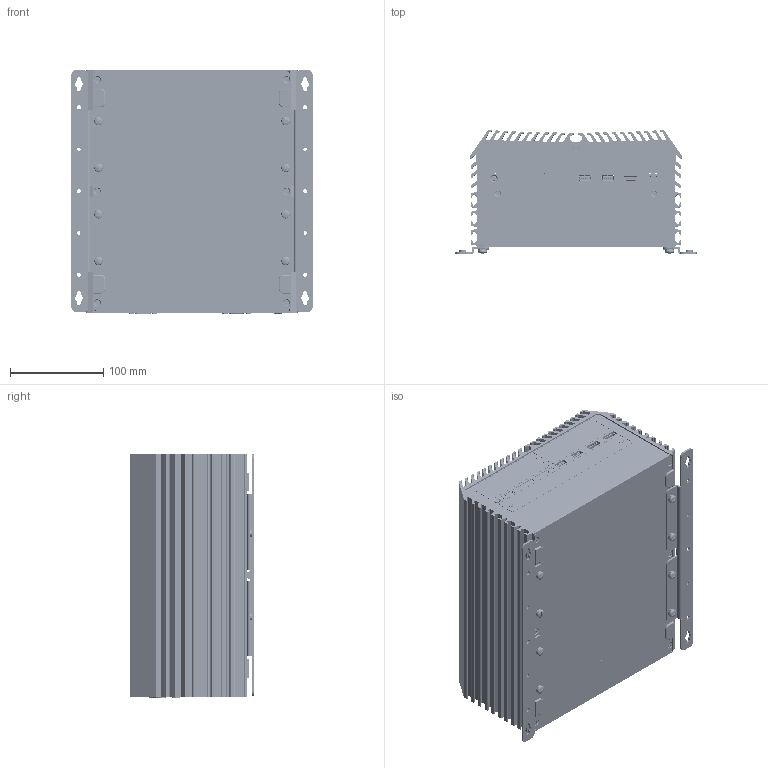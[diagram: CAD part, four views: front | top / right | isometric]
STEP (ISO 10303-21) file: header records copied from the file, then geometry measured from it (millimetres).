
FILE_DESCRIPTION (( 'STEP AP214' ), '1' );
FILE_NAME ('1-DS-1502-¼Ð·Ç-20250203-¥~Æ[.STEP', '2025-04-18T10:42:51', ( '' ), ( '' ), 'SwSTEP 2.0', 'SolidWorks 2014', '' );
FILE_SCHEMA (( 'AUTOMOTIVE_DESIGN' ));
Length unit declared in the file: millimetre
Products named in the file (39): DS-1302-Rear Bezel(M1-407130234100)-20200419; 銅柱-4-4OUNC-4.8_11.8H(M3-COSD6L00000)東莞?輝; AUTIO_2IN1; Screw-耐落-沙拉-90-星型-T10-黑-M3x8(M3-N103082260); Rubber Foot Shore(M4-RUFT0100001); Top Cover(M1-407120206300)-DS-1202-金金-20181015; DS-1200-Front Bezel Matching Bezel(M1-407120084100); Screw-丸頭-十字-外齒-M5x8(M3-SCREAB00002); DS-MEC KIT-Universal Bracket(M1-ZZZZ3613001); D330H1SL72211DD0; DS-1202-Top Cover asm-金金-20180402; Screw-丸頭-十字-耐落-SW-M5x6(M3-SCREAB00001); 23-D0341500030_DC_IN1_5EHDRM-03P_8; Screw-沙拉-120-星型-T10+E型扣-黑-M3x13(M3-1103132270+M3-402004050415); DS-1302-Front Bezel(M1-407130224100)-20200311; DS-1502-Riser Card Bracket asm-20240216; DS-1500-Front Open Bezel(M1-407150084100); USB3.0-2L+RJ45-JFM38U1B-B313-4F(23-D0202300320); PWR_BTN_TC003; 23-D0242300200_DP1_DISPLAYPORT; DS-1500-PCBA-ASM-20250203; USB-3.0-SMT-T.H(122-0921NX0504); DS-1102-Riser Card Bracket-A(M1-107110253400); USB3.1-2+RJ45-JFM48U1B-BA04(2.5G)(23-D0572300320); WHDM-19FLBSDR; DS-1300-Front Bezel-symbol_panel(M0-ZZZZ5C30009)-20200923; Screw-耐落-沙拉-120-星型-T10-黑-M3x5(M3-N103052230); 1-DS-1502-標準-20250203-外觀; L-Bracket(M0-LBKT2300017); Hole Plugs(M4-RUBR0100004)-M06V0; 23-D0341500040_FAN2_ECH350R_3P_1LAYER; DS-1200-Bottom Cover(M1-407120011200)-20180821; 23-D0351500040_CN1_ECHB350R-04P; DS-1200-Bottom Cover asm-20200406; DS-1502-Riser Card Bracket(M1-107150253400)-20240216; 23-D0351500040_CN2_MINIDIN_USBX2; DS-1500-Main Board asm-20250203; DS-Wall Mount Bracket(M1-ZZZZ3611004); D20H1P1PA1X2A111N2 (3D)
Assembly tree (73 placements, depth 4):
  1-DS-1502-標準-20250203-外觀
    DS-1500-PCBA-ASM-20250203
      DS-1500-Main Board asm-20250203
        23-D0351500040_CN1_ECHB350R-04P
        AUTIO_2IN1
        D20H1P1PA1X2A111N2 (3D)
        23-D0351500040_CN2_MINIDIN_USBX2
        D330H1SL72211DD0
        23-D0242300200_DP1_DISPLAYPORT  x2
        23-D0341500040_FAN2_ECH350R_3P_1LAYER
        23-D0341500030_DC_IN1_5EHDRM-03P_8
        PWR_BTN_TC003
        USB-3.0-SMT-T.H(122-0921NX0504)  x2
        WHDM-19FLBSDR
        USB3.0-2L+RJ45-JFM38U1B-B313-4F(23-D0202300320)
        USB3.1-2+RJ45-JFM48U1B-BA04(2.5G)(23-D0572300320)
    DS-1302-Front Bezel(M1-407130224100)-20200311
    DS-1300-Front Bezel-symbol_panel(M0-ZZZZ5C30009)-20200923
    DS-1500-Front Open Bezel(M1-407150084100)
    DS-1200-Front Bezel Matching Bezel(M1-407120084100)  x2
    DS-1302-Rear Bezel(M1-407130234100)-20200419
    DS-MEC KIT-Universal Bracket(M1-ZZZZ3613001)  x3
    DS-1202-Top Cover asm-金金-20180402
      Top Cover(M1-407120206300)-DS-1202-金金-20181015
    DS-1200-Bottom Cover asm-20200406
      DS-1200-Bottom Cover(M1-407120011200)-20180821
      Rubber Foot Shore(M4-RUFT0100001)  x4
    Screw-耐落-沙拉-120-星型-T10-黑-M3x5(M3-N103052230)  x7
    Screw-耐落-沙拉-90-星型-T10-黑-M3x8(M3-N103082260)  x6
    Screw-沙拉-120-星型-T10+E型扣-黑-M3x13(M3-1103132270+M3-402004050415)  x2
    Screw-丸頭-十字-外齒-M5x8(M3-SCREAB00002)
    Hole Plugs(M4-RUBR0100004)-M06V0  x2
    DS-Wall Mount Bracket(M1-ZZZZ3611004)  x2
    Screw-丸頭-十字-耐落-SW-M5x6(M3-SCREAB00001)  x8
    銅柱-4-4OUNC-4.8_11.8H(M3-COSD6L00000)東莞?輝  x6
    DS-1502-Riser Card Bracket asm-20240216
      DS-1502-Riser Card Bracket(M1-107150253400)-20240216
        DS-1102-Riser Card Bracket-A(M1-107110253400)
      L-Bracket(M0-LBKT2300017)  x2
Bounding box: 259 x 132.78 x 262.9 mm (x, y, z)
Volume: 1492204.1 mm3; surface area: 843298.4 mm2
Topology: 92 solids, 292 shells, 22696 faces, 63026 edges, 40855 vertices
Faces by surface type: plane 14029, cylinder 6133, bspline 2247, cone 195, sphere 58, torus 34
Entity records: 799912 total; most frequent: CARTESIAN_POINT 216826, ORIENTED_EDGE 104790, DIRECTION 84154, EDGE_CURVE 52603, VECTOR 35712, LINE 35712, VERTEX_POINT 34109, AXIS2_PLACEMENT_3D 24221
